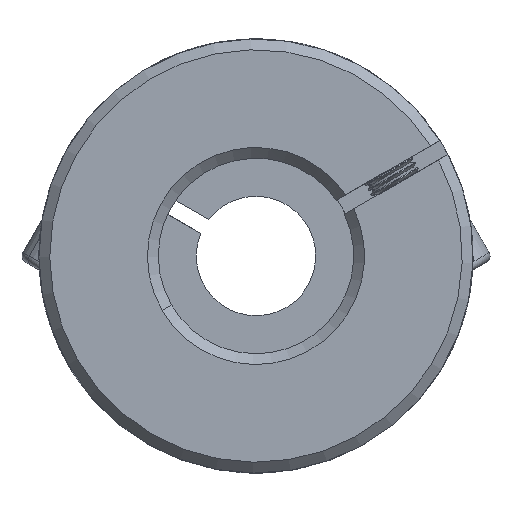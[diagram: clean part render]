
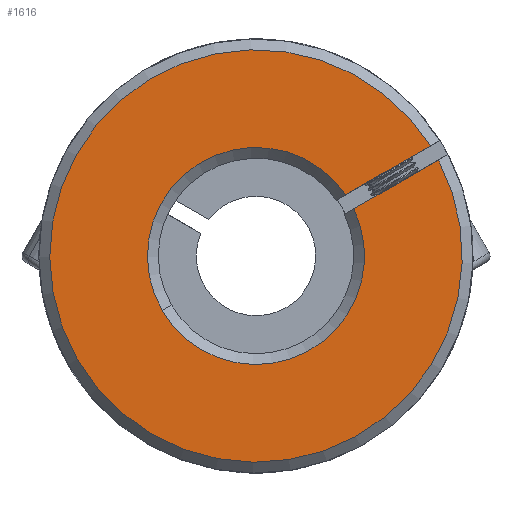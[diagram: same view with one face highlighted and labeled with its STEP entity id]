
A CAD part, front view. The second image highlights one B-rep face of the part: STEP entity #1616.
In plain terms, the highlighted planar face has unit normal (0, -1, 0).
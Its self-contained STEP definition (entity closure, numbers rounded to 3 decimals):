
#187 = DIRECTION ( 'NONE',  ( 0., -1., 0. ) ) ;
#191 = CARTESIAN_POINT ( 'NONE',  ( 14.616, -31.239, 50.147 ) ) ;
#615 = DIRECTION ( 'NONE',  ( 0.866, 0., 0.5 ) ) ;
#1407 = EDGE_CURVE ( 'NONE', #3130, #9770, #4884, .T. ) ;
#1616 = ADVANCED_FACE ( 'NONE', ( #13648 ), #9570, .F. ) ;
#1640 = ORIENTED_EDGE ( 'NONE', *, *, #9074, .F. ) ;
#1894 = AXIS2_PLACEMENT_3D ( 'NONE', #8317, #6151, #10340 ) ;
#2234 = EDGE_CURVE ( 'NONE', #12122, #10759, #7890, .T. ) ;
#2387 = CARTESIAN_POINT ( 'NONE',  ( -1.447, -31.239, 40. ) ) ;
#3130 = VERTEX_POINT ( 'NONE', #191 ) ;
#3313 = EDGE_CURVE ( 'NONE', #10759, #5089, #5844, .T. ) ;
#3425 = LINE ( 'NONE', #12129, #4426 ) ;
#3800 = CARTESIAN_POINT ( 'NONE',  ( 7.562, -31.239, 44.339 ) ) ;
#4426 = VECTOR ( 'NONE', #9048, 1000. ) ;
#4884 = CIRCLE ( 'NONE', #7709, 19. ) ;
#5089 = VERTEX_POINT ( 'NONE', #13392 ) ;
#5585 = EDGE_CURVE ( 'NONE', #3130, #5089, #3425, .T. ) ;
#5810 = CARTESIAN_POINT ( 'NONE',  ( 15.367, -31.239, 48.848 ) ) ;
#5844 = CIRCLE ( 'NONE', #1894, 10. ) ;
#6151 = DIRECTION ( 'NONE',  ( 0., 1., 0. ) ) ;
#6203 = VECTOR ( 'NONE', #615, 1000. ) ;
#6262 = AXIS2_PLACEMENT_3D ( 'NONE', #6670, #9889, #10967 ) ;
#6662 = ORIENTED_EDGE ( 'NONE', *, *, #1407, .T. ) ;
#6670 = CARTESIAN_POINT ( 'NONE',  ( -1.447, -31.239, 40. ) ) ;
#7696 = ORIENTED_EDGE ( 'NONE', *, *, #3313, .T. ) ;
#7709 = AXIS2_PLACEMENT_3D ( 'NONE', #2387, #187, #12985 ) ;
#7864 = ORIENTED_EDGE ( 'NONE', *, *, #2234, .T. ) ;
#7890 = CIRCLE ( 'NONE', #6262, 10. ) ;
#8317 = CARTESIAN_POINT ( 'NONE',  ( -1.447, -31.239, 40. ) ) ;
#9048 = DIRECTION ( 'NONE',  ( -0.866, 0., -0.5 ) ) ;
#9074 = EDGE_CURVE ( 'NONE', #12122, #9770, #10251, .T. ) ;
#9140 = CARTESIAN_POINT ( 'NONE',  ( 6.694, -31.239, 43.837 ) ) ;
#9570 = PLANE ( 'NONE',  #12512 ) ;
#9770 = VERTEX_POINT ( 'NONE', #5810 ) ;
#9889 = DIRECTION ( 'NONE',  ( 0., 1., 0. ) ) ;
#10251 = LINE ( 'NONE', #9140, #6203 ) ;
#10340 = DIRECTION ( 'NONE',  ( 0.5, 0., -0.866 ) ) ;
#10759 = VERTEX_POINT ( 'NONE', #12801 ) ;
#10967 = DIRECTION ( 'NONE',  ( 0.5, 0., -0.866 ) ) ;
#10987 = ORIENTED_EDGE ( 'NONE', *, *, #5585, .F. ) ;
#11743 = CARTESIAN_POINT ( 'NONE',  ( 52.98, -31.239, 45.743 ) ) ;
#12031 = DIRECTION ( 'NONE',  ( 0., 1., 0. ) ) ;
#12122 = VERTEX_POINT ( 'NONE', #3800 ) ;
#12129 = CARTESIAN_POINT ( 'NONE',  ( 5.943, -31.239, 45.136 ) ) ;
#12310 = EDGE_LOOP ( 'NONE', ( #1640, #7864, #7696, #10987, #6662 ) ) ;
#12512 = AXIS2_PLACEMENT_3D ( 'NONE', #11743, #12031, #13097 ) ;
#12801 = CARTESIAN_POINT ( 'NONE',  ( -10.106, -31.239, 34.997 ) ) ;
#12985 = DIRECTION ( 'NONE',  ( 0.5, 0., -0.866 ) ) ;
#13097 = DIRECTION ( 'NONE',  ( 0.5, 0., -0.866 ) ) ;
#13392 = CARTESIAN_POINT ( 'NONE',  ( 6.812, -31.239, 45.638 ) ) ;
#13648 = FACE_OUTER_BOUND ( 'NONE', #12310, .T. ) ;
